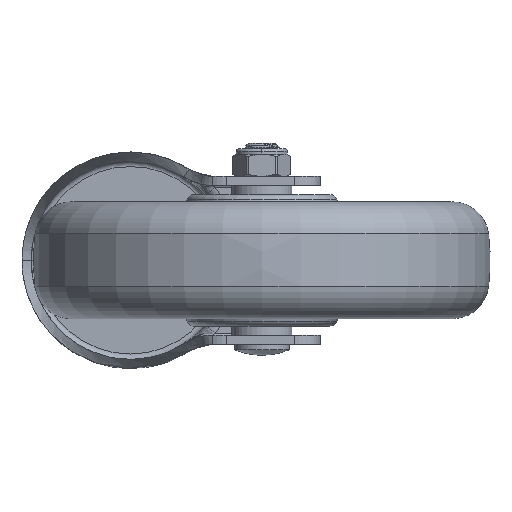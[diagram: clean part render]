
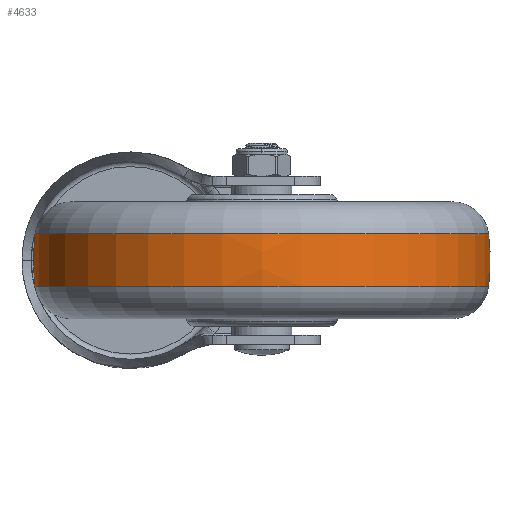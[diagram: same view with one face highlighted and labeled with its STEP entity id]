
A CAD part, front view. The second image highlights one B-rep face of the part: STEP entity #4633.
In plain terms, the highlighted free-form (B-spline) face has degree [3, 3] with [7, 4] control points.
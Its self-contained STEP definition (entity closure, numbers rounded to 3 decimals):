
#4025=CARTESIAN_POINT('',(-7.2,0.,0.));
#4026=DIRECTION('',(-1.,0.,0.));
#4027=DIRECTION('',(0.,1.,0.));
#4028=AXIS2_PLACEMENT_3D('',#4025,#4026,#4027);
#4040=CARTESIAN_POINT('',(0.,2.5,0.));
#4041=DIRECTION('',(0.,0.,1.));
#4042=DIRECTION('',(0.12,0.993,0.));
#4043=AXIS2_PLACEMENT_3D('',#4040,#4041,#4042);
#4045=CARTESIAN_POINT('',(0.,-2.5,0.));
#4046=DIRECTION('',(0.,0.,-1.));
#4047=DIRECTION('',(0.12,-0.993,0.));
#4048=AXIS2_PLACEMENT_3D('',#4045,#4046,#4047);
#4050=CARTESIAN_POINT('',(7.2,0.,0.));
#4051=DIRECTION('',(-1.,0.,0.));
#4052=DIRECTION('',(0.,1.,0.));
#4053=AXIS2_PLACEMENT_3D('',#4050,#4051,#4052);
#4274=CARTESIAN_POINT('',(-7.2,62.066,0.));
#4276=VERTEX_POINT('',#4274);
#4278=CARTESIAN_POINT('',(-7.2,-62.066,
0.));
#4280=VERTEX_POINT('',#4278);
#4307=CARTESIAN_POINT('',(7.2,62.066,0.));
#4309=VERTEX_POINT('',#4307);
#4311=CARTESIAN_POINT('',(7.2,-62.066,
0.));
#4313=VERTEX_POINT('',#4311);
#4597=CARTESIAN_POINT('',(-7.487,-61.909,
3.895));
#4598=CARTESIAN_POINT('',(-2.509,-62.533,
3.934));
#4599=CARTESIAN_POINT('',(2.509,-62.533,3.934));
#4600=CARTESIAN_POINT('',(7.487,-61.909,3.895));
#4601=CARTESIAN_POINT('',(-7.487,-64.306,
-34.204));
#4602=CARTESIAN_POINT('',(-2.509,-64.955,
-34.549));
#4603=CARTESIAN_POINT('',(2.509,-64.955,
-34.549));
#4604=CARTESIAN_POINT('',(7.487,-64.306,
-34.204));
#4605=CARTESIAN_POINT('',(-7.487,-38.174,
-62.031));
#4606=CARTESIAN_POINT('',(-2.509,-38.559,
-62.657));
#4607=CARTESIAN_POINT('',(2.509,-38.559,
-62.657));
#4608=CARTESIAN_POINT('',(7.487,-38.174,
-62.031));
#4609=CARTESIAN_POINT('',(-7.487,0.,
-62.031));
#4610=CARTESIAN_POINT('',(-2.509,0.,
-62.657));
#4611=CARTESIAN_POINT('',(2.509,0.,
-62.657));
#4612=CARTESIAN_POINT('',(7.487,0.,
-62.031));
#4613=CARTESIAN_POINT('',(-7.487,38.174,
-62.031));
#4614=CARTESIAN_POINT('',(-2.509,38.559,
-62.657));
#4615=CARTESIAN_POINT('',(2.509,38.559,-62.657));
#4616=CARTESIAN_POINT('',(7.487,38.174,-62.031));
#4617=CARTESIAN_POINT('',(-7.487,64.306,
-34.204));
#4618=CARTESIAN_POINT('',(-2.509,64.955,
-34.549));
#4619=CARTESIAN_POINT('',(2.509,64.955,-34.549));
#4620=CARTESIAN_POINT('',(7.487,64.306,-34.204));
#4621=CARTESIAN_POINT('',(-7.487,61.909,3.895));
#4622=CARTESIAN_POINT('',(-2.509,62.533,3.934));
#4623=CARTESIAN_POINT('',(2.509,62.533,3.934));
#4624=CARTESIAN_POINT('',(7.487,61.909,3.895));
#4625=(BOUNDED_SURFACE()B_SPLINE_SURFACE(3,3,((#4597,#4598,#4599,#4600),(#4601,
#4602,#4603,#4604),(#4605,#4606,#4607,#4608),(#4609,#4610,#4611,#4612),(#4613,
#4614,#4615,#4616),(#4617,#4618,#4619,#4620),(#4621,#4622,#4623,#4624)),
.UNSPECIFIED.,.F.,.F.,.F.)B_SPLINE_SURFACE_WITH_KNOTS((4,3,4),(4,4),(0.,1.,
2.),(0.,1.),.UNSPECIFIED.)GEOMETRIC_REPRESENTATION_ITEM()RATIONAL_B_SPLINE_SURFACE(((1.192,1.186,1.186,1.192),(
0.941,0.936,0.936,0.941),(
0.941,0.936,0.936,0.941),(
1.192,1.186,1.186,1.192),(
0.941,0.936,0.936,0.941),(
0.941,0.936,0.936,0.941),(
1.192,1.186,1.186,1.192)))REPRESENTATION_ITEM('')SURFACE());
#4626=ORIENTED_EDGE('',*,*,#4587,.T.);
#4627=ORIENTED_EDGE('',*,*,#4540,.T.);
#4628=ORIENTED_EDGE('',*,*,#4591,.F.);
#4630=ORIENTED_EDGE('',*,*,#4629,.F.);
#4631=EDGE_LOOP('',(#4626,#4627,#4628,#4630));
#4632=FACE_OUTER_BOUND('',#4631,.F.);
#4029=CIRCLE('',#4028,62.066);
#4044=CIRCLE('',#4043,60.);
#4049=CIRCLE('',#4048,60.);
#4054=CIRCLE('',#4053,62.066);
#4540=EDGE_CURVE('',#4276,#4280,#4029,.T.);
#4587=EDGE_CURVE('',#4309,#4276,#4044,.T.);
#4591=EDGE_CURVE('',#4313,#4280,#4049,.T.);
#4629=EDGE_CURVE('',#4309,#4313,#4054,.T.);
#4633=ADVANCED_FACE('',(#4632),#4625,.T.);
